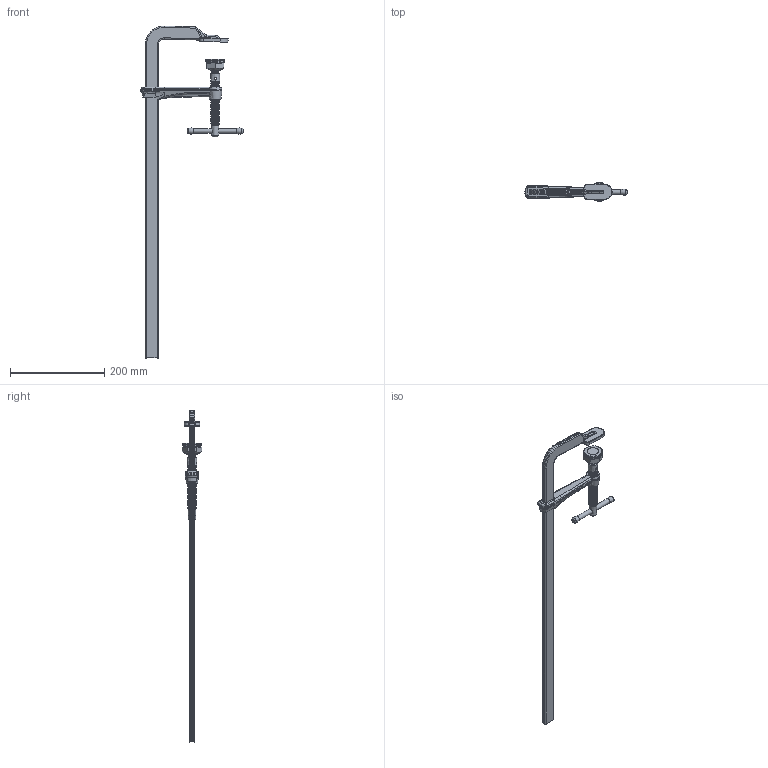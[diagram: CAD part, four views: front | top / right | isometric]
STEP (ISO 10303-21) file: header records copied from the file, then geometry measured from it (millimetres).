
FILE_DESCRIPTION( ('This file contains a STEP AP42 implementation' ,'as created by ZW3D STEP Interface translator.') ,'2;1' );
FILE_NAME( 'GSL60_kpl_28x11.stp' ,'15 410.145336', (''), ('ZWCAD Software Co.'), 'Version 1.0', 'ZW3D to STEP translator', '' );
FILE_SCHEMA( ('CONFIG_CONTROL_DESIGN') );
Length unit declared in the file: millimetre
Products named in the file (10): 0; GSL60_kpl_28x11; GSL60_Festbügel_28x11; Gleitb_kpl_SL-M; Gleitbuegel_28x11_120mod; Spindel_kpl_SGL-M; Spindel_SGL-M; Druckplatte_kpl_HLZ_2.-Line; 3007071_Bolzen_HLZ; 3008298b
Assembly tree (8 placements, depth 4):
  0
  GSL60_kpl_28x11
    GSL60_Festbügel_28x11
    Gleitb_kpl_SL-M
      Gleitbuegel_28x11_120mod
      Spindel_kpl_SGL-M
        Spindel_SGL-M
      Druckplatte_kpl_HLZ_2.-Line
        3007071_Bolzen_HLZ
        3008298b
Bounding box: 216.39 x 41.57 x 702.88 mm (x, y, z)
Volume: 341699.7 mm3; surface area: 103307.6 mm2
Topology: 6 solids, 16 shells, 426 faces, 947 edges, 538 vertices
Faces by surface type: bspline 426
Entity records: 46030 total; most frequent: CARTESIAN_POINT 39960, ORIENTED_EDGE 1872, EDGE_CURVE 945, B_SPLINE_CURVE_WITH_KNOTS 558, VERTEX_POINT 538, EDGE_LOOP 445, FACE_OUTER_BOUND 426, ADVANCED_FACE 426
